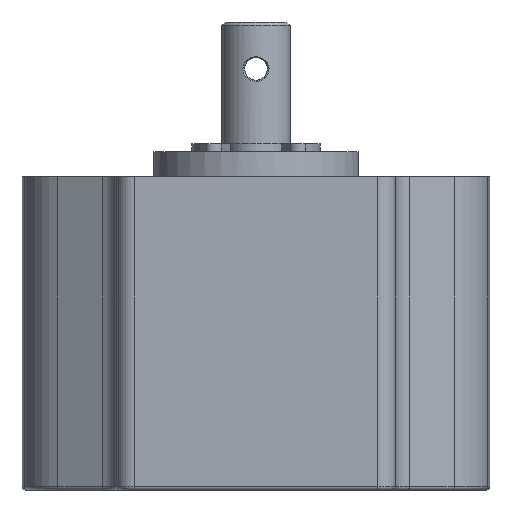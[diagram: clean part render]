
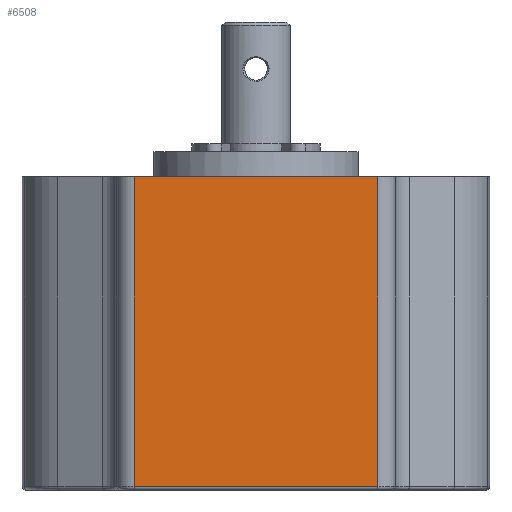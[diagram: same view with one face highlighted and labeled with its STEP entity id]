
A CAD part, front view. The second image highlights one B-rep face of the part: STEP entity #6508.
In plain terms, the highlighted planar face has unit normal (0, -1, 0).
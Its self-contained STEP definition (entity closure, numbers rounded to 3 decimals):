
#140 = DIRECTION ( 'NONE',  ( 1., 0., 0. ) ) ;
#393 = LINE ( 'NONE', #11729, #18619 ) ;
#866 = DIRECTION ( 'NONE',  ( 1., 0., 0. ) ) ;
#2636 = VERTEX_POINT ( 'NONE', #6773 ) ;
#2857 = LINE ( 'NONE', #2951, #17243 ) ;
#2951 = CARTESIAN_POINT ( 'NONE',  ( -12.2, -18.65, -2.2 ) ) ;
#3609 = EDGE_CURVE ( 'NONE', #16371, #8444, #2857, .T. ) ;
#5528 = PLANE ( 'NONE',  #9837 ) ;
#5542 = VERTEX_POINT ( 'NONE', #15805 ) ;
#6508 = ADVANCED_FACE ( 'NONE', ( #11152 ), #5528, .T. ) ;
#6773 = CARTESIAN_POINT ( 'NONE',  ( -10.7, -18.65, -29.4 ) ) ;
#6984 = CARTESIAN_POINT ( 'NONE',  ( -12.2, -18.65, -29.7 ) ) ;
#7378 = EDGE_CURVE ( 'NONE', #16371, #2636, #17612, .T. ) ;
#8209 = ORIENTED_EDGE ( 'NONE', *, *, #3609, .F. ) ;
#8419 = DIRECTION ( 'NONE',  ( 0., 0., -1. ) ) ;
#8444 = VERTEX_POINT ( 'NONE', #10309 ) ;
#9559 = LINE ( 'NONE', #10934, #13360 ) ;
#9837 = AXIS2_PLACEMENT_3D ( 'NONE', #6984, #16985, #8419 ) ;
#10002 = VECTOR ( 'NONE', #16547, 1000. ) ;
#10309 = CARTESIAN_POINT ( 'NONE',  ( 10.7, -18.65, -2.2 ) ) ;
#10392 = CARTESIAN_POINT ( 'NONE',  ( -10.7, -18.65, -2.2 ) ) ;
#10933 = EDGE_CURVE ( 'NONE', #2636, #5542, #9559, .T. ) ;
#10934 = CARTESIAN_POINT ( 'NONE',  ( 10.7, -18.65, -29.4 ) ) ;
#11152 = FACE_OUTER_BOUND ( 'NONE', #14835, .T. ) ;
#11415 = ORIENTED_EDGE ( 'NONE', *, *, #10933, .T. ) ;
#11690 = ORIENTED_EDGE ( 'NONE', *, *, #7378, .T. ) ;
#11729 = CARTESIAN_POINT ( 'NONE',  ( 10.7, -18.65, -29.7 ) ) ;
#13169 = DIRECTION ( 'NONE',  ( 0., 0., 1. ) ) ;
#13360 = VECTOR ( 'NONE', #866, 1000. ) ;
#14835 = EDGE_LOOP ( 'NONE', ( #11690, #11415, #15900, #8209 ) ) ;
#15101 = CARTESIAN_POINT ( 'NONE',  ( -10.7, -18.65, -29.7 ) ) ;
#15805 = CARTESIAN_POINT ( 'NONE',  ( 10.7, -18.65, -29.4 ) ) ;
#15900 = ORIENTED_EDGE ( 'NONE', *, *, #17538, .T. ) ;
#16371 = VERTEX_POINT ( 'NONE', #10392 ) ;
#16547 = DIRECTION ( 'NONE',  ( 0., 0., -1. ) ) ;
#16985 = DIRECTION ( 'NONE',  ( 0., -1., 0. ) ) ;
#17243 = VECTOR ( 'NONE', #140, 1000. ) ;
#17538 = EDGE_CURVE ( 'NONE', #5542, #8444, #393, .T. ) ;
#17612 = LINE ( 'NONE', #15101, #10002 ) ;
#18619 = VECTOR ( 'NONE', #13169, 1000. ) ;
